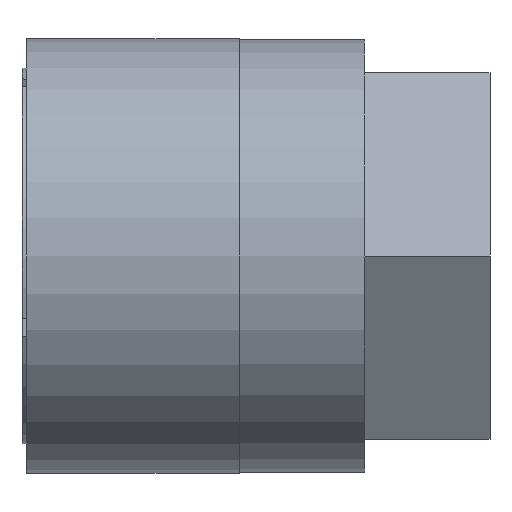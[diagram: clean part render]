
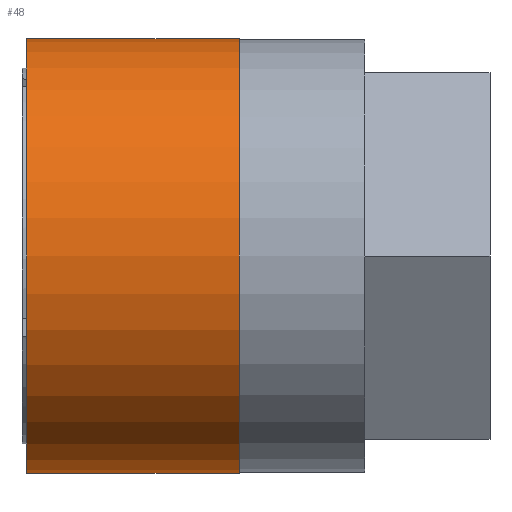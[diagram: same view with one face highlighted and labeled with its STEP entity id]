
A CAD part, front view. The second image highlights one B-rep face of the part: STEP entity #48.
In plain terms, the highlighted cylindrical face has radius 22.5 mm (diameter 45 mm), a partial arc.
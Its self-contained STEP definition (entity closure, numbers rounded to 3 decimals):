
#28 = CARTESIAN_POINT ( 'NONE',  ( 22.5, 0., 22.5 ) ) ;
#48 = ADVANCED_FACE ( 'NONE', ( #710 ), #717, .T. ) ;
#188 = ORIENTED_EDGE ( 'NONE', *, *, #304, .T. ) ;
#226 = ORIENTED_EDGE ( 'NONE', *, *, #482, .T. ) ;
#297 = ORIENTED_EDGE ( 'NONE', *, *, #474, .F. ) ;
#301 = ORIENTED_EDGE ( 'NONE', *, *, #305, .F. ) ;
#304 = EDGE_CURVE ( 'NONE', #1080, #1117, #759, .T. ) ;
#305 = EDGE_CURVE ( 'NONE', #1127, #1117, #768, .T. ) ;
#404 = AXIS2_PLACEMENT_3D ( 'NONE', #944, #948, #956 ) ;
#460 = AXIS2_PLACEMENT_3D ( 'NONE', #1420, #1419, #1418 ) ;
#474 = EDGE_CURVE ( 'NONE', #1125, #1127, #848, .T. ) ;
#482 = EDGE_CURVE ( 'NONE', #1125, #1080, #866, .T. ) ;
#672 = EDGE_LOOP ( 'NONE', ( #297, #226, #188, #301 ) ) ;
#710 = FACE_OUTER_BOUND ( 'NONE', #672, .T. ) ;
#717 = CYLINDRICAL_SURFACE ( 'NONE', #404, 22.5 ) ;
#759 = LINE ( 'NONE', #936, #765 ) ;
#765 = VECTOR ( 'NONE', #933, 1000. ) ;
#768 = CIRCLE ( 'NONE', #1707, 22.5 ) ;
#848 = LINE ( 'NONE', #1440, #851 ) ;
#851 = VECTOR ( 'NONE', #1437, 1000. ) ;
#866 = CIRCLE ( 'NONE', #460, 22.5 ) ;
#929 = DIRECTION ( 'NONE',  ( 0., 0., 1. ) ) ;
#931 = DIRECTION ( 'NONE',  ( -1., 0., 0. ) ) ;
#932 = CARTESIAN_POINT ( 'NONE',  ( 0.5, 0., 0. ) ) ;
#933 = DIRECTION ( 'NONE',  ( -1., 0., 0. ) ) ;
#936 = CARTESIAN_POINT ( 'NONE',  ( 0., 0., 22.5 ) ) ;
#944 = CARTESIAN_POINT ( 'NONE',  ( 0., 0., 0. ) ) ;
#948 = DIRECTION ( 'NONE',  ( -1., 0., 0. ) ) ;
#956 = DIRECTION ( 'NONE',  ( 0., 0., 1. ) ) ;
#1080 = VERTEX_POINT ( 'NONE', #28 ) ;
#1117 = VERTEX_POINT ( 'NONE', #1244 ) ;
#1125 = VERTEX_POINT ( 'NONE', #1238 ) ;
#1127 = VERTEX_POINT ( 'NONE', #1236 ) ;
#1236 = CARTESIAN_POINT ( 'NONE',  ( 0.5, 0., -22.5 ) ) ;
#1238 = CARTESIAN_POINT ( 'NONE',  ( 22.5, 0., -22.5 ) ) ;
#1244 = CARTESIAN_POINT ( 'NONE',  ( 0.5, 0., 22.5 ) ) ;
#1418 = DIRECTION ( 'NONE',  ( 0., 0., 1. ) ) ;
#1419 = DIRECTION ( 'NONE',  ( -1., 0., 0. ) ) ;
#1420 = CARTESIAN_POINT ( 'NONE',  ( 22.5, 0., 0. ) ) ;
#1437 = DIRECTION ( 'NONE',  ( -1., 0., 0. ) ) ;
#1440 = CARTESIAN_POINT ( 'NONE',  ( 0., 0., -22.5 ) ) ;
#1707 = AXIS2_PLACEMENT_3D ( 'NONE', #932, #931, #929 ) ;
